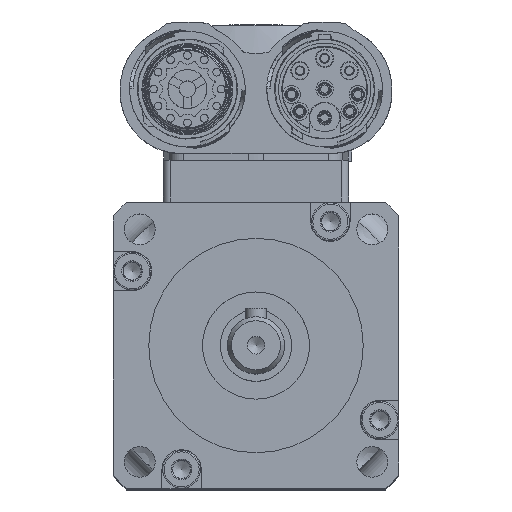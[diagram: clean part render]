
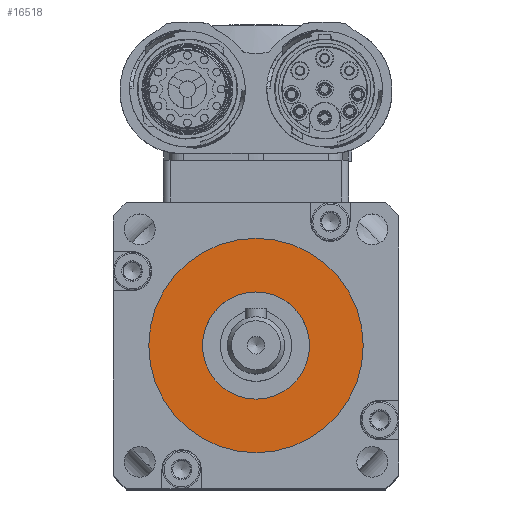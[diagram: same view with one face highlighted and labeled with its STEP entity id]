
A CAD part, top view. The second image highlights one B-rep face of the part: STEP entity #16518.
In plain terms, the highlighted planar face has unit normal (0, 0, 1).
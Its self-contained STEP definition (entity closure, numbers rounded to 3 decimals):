
#3465=PLANE('',#17648);
#3910=FACE_BOUND('',#5414,.T.);
#3911=FACE_BOUND('',#5415,.T.);
#5414=EDGE_LOOP('',(#11698));
#5415=EDGE_LOOP('',(#11699));
#6873=CIRCLE('',#17644,7.5);
#6874=CIRCLE('',#17646,15.);
#7755=VERTEX_POINT('',#24480);
#7756=VERTEX_POINT('',#24483);
#9398=EDGE_CURVE('',#7755,#7755,#6873,.T.);
#9399=EDGE_CURVE('',#7756,#7756,#6874,.T.);
#11698=ORIENTED_EDGE('',*,*,#9398,.T.);
#11699=ORIENTED_EDGE('',*,*,#9399,.T.);
#16518=ADVANCED_FACE('',(#3910,#3911),#3465,.T.);
#17644=AXIS2_PLACEMENT_3D('',#24481,#19698,#19699);
#17646=AXIS2_PLACEMENT_3D('',#24484,#19702,#19703);
#17648=AXIS2_PLACEMENT_3D('',#24487,#19706,#19707);
#19698=DIRECTION('center_axis',(0.,0.,-1.));
#19699=DIRECTION('ref_axis',(-1.,0.,0.));
#19702=DIRECTION('center_axis',(0.,0.,1.));
#19703=DIRECTION('ref_axis',(-1.,0.,0.));
#19706=DIRECTION('center_axis',(0.,0.,1.));
#19707=DIRECTION('ref_axis',(1.,0.,0.));
#24480=CARTESIAN_POINT('',(7.5,0.,33.5));
#24481=CARTESIAN_POINT('Origin',(0.,0.,33.5));
#24483=CARTESIAN_POINT('',(15.,0.,33.5));
#24484=CARTESIAN_POINT('Origin',(0.,0.,33.5));
#24487=CARTESIAN_POINT('Origin',(0.,0.,
33.5));
